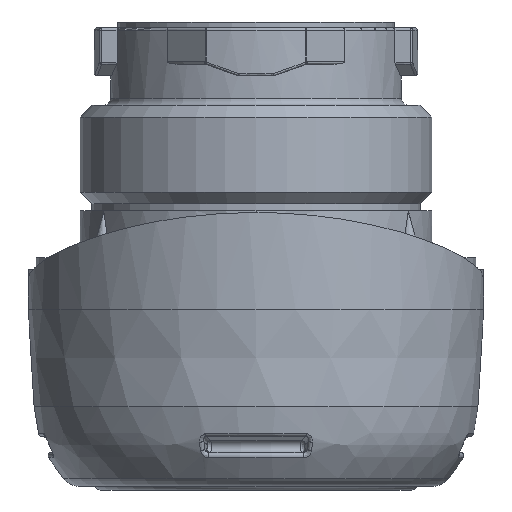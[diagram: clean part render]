
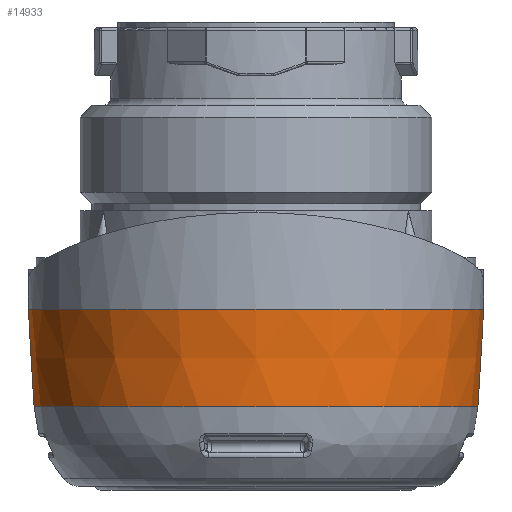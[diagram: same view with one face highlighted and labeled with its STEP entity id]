
A CAD part, front view. The second image highlights one B-rep face of the part: STEP entity #14933.
In plain terms, the highlighted conical face has half-angle 2.845 degrees and reference radius 19.194 mm.
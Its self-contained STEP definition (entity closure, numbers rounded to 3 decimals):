
#2400=DIRECTION('',(0.05,0.,-0.999));
#2401=VECTOR('',#2400,1.951);
#2402=CARTESIAN_POINT('',(-19.4,-18.,-24.5));
#2403=LINE('',#2402,#2401);
#2408=CARTESIAN_POINT('',(15.344,-6.618,
-30.44));
#2409=CARTESIAN_POINT('',(15.527,-6.864,
-30.44));
#2410=CARTESIAN_POINT('',(15.902,-7.392,
-30.413));
#2411=CARTESIAN_POINT('',(16.478,-8.295,
-30.281));
#2412=CARTESIAN_POINT('',(17.057,-9.322,
-30.046));
#2413=CARTESIAN_POINT('',(17.619,-10.479,
-29.7));
#2414=CARTESIAN_POINT('',(18.143,-11.77,
-29.24));
#2415=CARTESIAN_POINT('',(18.601,-13.189,
-28.667));
#2416=CARTESIAN_POINT('',(18.967,-14.719,
-27.996));
#2417=CARTESIAN_POINT('',(19.215,-16.337,
-27.245));
#2418=CARTESIAN_POINT('',(19.29,-17.44,
-26.718));
#2419=CARTESIAN_POINT('',(19.303,-18.,
-26.449));
#2421=CARTESIAN_POINT('',(0.,-18.,-30.44));
#2422=DIRECTION('',(0.,0.,-1.));
#2423=DIRECTION('',(0.427,0.904,0.));
#2424=AXIS2_PLACEMENT_3D('',#2421,#2422,#2423);
#2426=CARTESIAN_POINT('',(7.916,-0.726,
-32.529));
#2427=CARTESIAN_POINT('',(7.943,-0.726,
-32.297));
#2428=CARTESIAN_POINT('',(7.996,-0.725,
-31.833));
#2429=CARTESIAN_POINT('',(8.075,-0.724,
-31.137));
#2430=CARTESIAN_POINT('',(8.128,-0.723,
-30.672));
#2431=CARTESIAN_POINT('',(8.154,-0.723,
-30.44));
#2433=CARTESIAN_POINT('',(0.,-18.,-32.796));
#2434=DIRECTION('',(0.,0.,-1.));
#2435=DIRECTION('',(0.417,0.909,0.));
#2436=AXIS2_PLACEMENT_3D('',#2433,#2434,#2435);
#2438=DIRECTION('',(0.021,-0.045,-0.999));
#2439=VECTOR('',#2438,0.268);
#2440=CARTESIAN_POINT('',(-7.916,-0.726,
-32.529));
#2441=LINE('',#2440,#2439);
#2442=CARTESIAN_POINT('',(-7.916,-0.726,
-32.529));
#2443=CARTESIAN_POINT('',(-7.943,-0.726,
-32.297));
#2444=CARTESIAN_POINT('',(-7.996,-0.725,
-31.833));
#2445=CARTESIAN_POINT('',(-8.075,-0.724,
-31.137));
#2446=CARTESIAN_POINT('',(-8.128,-0.723,
-30.672));
#2447=CARTESIAN_POINT('',(-8.154,-0.723,
-30.44));
#2449=CARTESIAN_POINT('',(0.,-18.,-30.44));
#2450=DIRECTION('',(0.,0.,-1.));
#2451=DIRECTION('',(-0.803,0.596,0.));
#2452=AXIS2_PLACEMENT_3D('',#2449,#2450,#2451);
#2454=CARTESIAN_POINT('',(-19.303,-18.,-26.449));
#2455=CARTESIAN_POINT('',(-19.29,-17.44,
-26.717));
#2456=CARTESIAN_POINT('',(-19.215,-16.338,
-27.245));
#2457=CARTESIAN_POINT('',(-18.967,-14.719,
-27.995));
#2458=CARTESIAN_POINT('',(-18.601,-13.189,
-28.667));
#2459=CARTESIAN_POINT('',(-18.143,-11.77,
-29.24));
#2460=CARTESIAN_POINT('',(-17.619,-10.479,
-29.7));
#2461=CARTESIAN_POINT('',(-17.057,-9.322,
-30.046));
#2462=CARTESIAN_POINT('',(-16.478,-8.295,
-30.281));
#2463=CARTESIAN_POINT('',(-15.902,-7.392,
-30.413));
#2464=CARTESIAN_POINT('',(-15.527,-6.864,
-30.44));
#2465=CARTESIAN_POINT('',(-15.344,-6.618,
-30.44));
#2467=CARTESIAN_POINT('',(0.,-18.,-24.5));
#2468=DIRECTION('',(0.,0.,-1.));
#2469=DIRECTION('',(1.,0.,0.));
#2470=AXIS2_PLACEMENT_3D('',#2467,#2468,#2469);
#4836=DIRECTION('',(-0.05,0.,-0.999));
#4837=VECTOR('',#4836,1.951);
#4838=CARTESIAN_POINT('',(19.4,-18.,-24.5));
#4839=LINE('',#4838,#4837);
#4980=CARTESIAN_POINT('',(-8.154,-0.723,
-30.44));
#5003=CARTESIAN_POINT('',(-7.916,-0.726,
-32.529));
#5281=CARTESIAN_POINT('',(7.916,-0.726,
-32.529));
#5283=DIRECTION('',(-0.021,-0.045,-0.999));
#5284=VECTOR('',#5283,0.268);
#5285=CARTESIAN_POINT('',(7.916,-0.726,
-32.529));
#5286=LINE('',#5285,#5284);
#5324=CARTESIAN_POINT('',(8.154,-0.723,
-30.44));
#5353=CARTESIAN_POINT('',(19.303,-18.,
-26.449));
#11857=CARTESIAN_POINT('',(7.91,-0.738,
-32.796));
#11858=VERTEX_POINT('',#11857);
#11859=CARTESIAN_POINT('',(-7.91,-0.738,
-32.796));
#11860=VERTEX_POINT('',#11859);
#11868=VERTEX_POINT('',#2454);
#11869=VERTEX_POINT('',#2465);
#11872=VERTEX_POINT('',#5353);
#11873=VERTEX_POINT('',#2408);
#11879=VERTEX_POINT('',#5324);
#11881=VERTEX_POINT('',#5281);
#11882=VERTEX_POINT('',#4980);
#11885=VERTEX_POINT('',#5003);
#11891=CARTESIAN_POINT('',(19.4,-18.,-24.5));
#11892=VERTEX_POINT('',#11891);
#11893=CARTESIAN_POINT('',(-19.4,-18.,-24.5));
#11894=VERTEX_POINT('',#11893);
#14903=CARTESIAN_POINT('',(0.,-18.,-28.648));
#14904=DIRECTION('',(0.,0.,1.));
#14905=DIRECTION('',(1.,0.,0.));
#14906=AXIS2_PLACEMENT_3D('',#14903,#14904,#14905);
#14907=CONICAL_SURFACE('',#14906,19.194,2.845);
#14909=ORIENTED_EDGE('',*,*,#14908,.F.);
#14911=ORIENTED_EDGE('',*,*,#14910,.T.);
#14913=ORIENTED_EDGE('',*,*,#14912,.F.);
#14915=ORIENTED_EDGE('',*,*,#14914,.F.);
#14917=ORIENTED_EDGE('',*,*,#14916,.F.);
#14919=ORIENTED_EDGE('',*,*,#14918,.T.);
#14921=ORIENTED_EDGE('',*,*,#14920,.T.);
#14923=ORIENTED_EDGE('',*,*,#14922,.F.);
#14925=ORIENTED_EDGE('',*,*,#14924,.T.);
#14927=ORIENTED_EDGE('',*,*,#14926,.F.);
#14929=ORIENTED_EDGE('',*,*,#14928,.F.);
#14930=ORIENTED_EDGE('',*,*,#14894,.F.);
#14931=EDGE_LOOP('',(#14909,#14911,#14913,#14915,#14917,#14919,#14921,#14923,
#14925,#14927,#14929,#14930));
#14932=FACE_OUTER_BOUND('',#14931,.F.);
#14933=ADVANCED_FACE('',(#14932),#14907,.T.);
#2420=B_SPLINE_CURVE_WITH_KNOTS('',3,(#2408,#2409,#2410,#2411,#2412,#2413,#2414,
#2415,#2416,#2417,#2418,#2419),.UNSPECIFIED.,.F.,.F.,(4,1,1,1,1,1,1,1,1,4),
(0.,0.111,0.222,0.333,0.444,
0.556,0.667,0.778,0.889,1.),
.UNSPECIFIED.);
#2425=CIRCLE('',#2424,19.105);
#2432=B_SPLINE_CURVE_WITH_KNOTS('',3,(#2426,#2427,#2428,#2429,#2430,#2431),
.UNSPECIFIED.,.F.,.F.,(4,1,1,4),(0.,0.333,0.667,1.),
.UNSPECIFIED.);
#2437=CIRCLE('',#2436,18.988);
#2448=B_SPLINE_CURVE_WITH_KNOTS('',3,(#2442,#2443,#2444,#2445,#2446,#2447),
.UNSPECIFIED.,.F.,.F.,(4,1,1,4),(0.,0.333,0.667,1.),
.UNSPECIFIED.);
#2453=CIRCLE('',#2452,19.105);
#2466=B_SPLINE_CURVE_WITH_KNOTS('',3,(#2454,#2455,#2456,#2457,#2458,#2459,#2460,
#2461,#2462,#2463,#2464,#2465),.UNSPECIFIED.,.F.,.F.,(4,1,1,1,1,1,1,1,1,4),
(0.,0.111,0.222,0.333,0.444,
0.556,0.667,0.778,0.889,1.),
.UNSPECIFIED.);
#2471=CIRCLE('',#2470,19.4);
#14894=EDGE_CURVE('',#11894,#11868,#2403,.T.);
#14908=EDGE_CURVE('',#11892,#11894,#2471,.T.);
#14910=EDGE_CURVE('',#11892,#11872,#4839,.T.);
#14912=EDGE_CURVE('',#11873,#11872,#2420,.T.);
#14914=EDGE_CURVE('',#11879,#11873,#2425,.T.);
#14916=EDGE_CURVE('',#11881,#11879,#2432,.T.);
#14918=EDGE_CURVE('',#11881,#11858,#5286,.T.);
#14920=EDGE_CURVE('',#11858,#11860,#2437,.T.);
#14922=EDGE_CURVE('',#11885,#11860,#2441,.T.);
#14924=EDGE_CURVE('',#11885,#11882,#2448,.T.);
#14926=EDGE_CURVE('',#11869,#11882,#2453,.T.);
#14928=EDGE_CURVE('',#11868,#11869,#2466,.T.);
